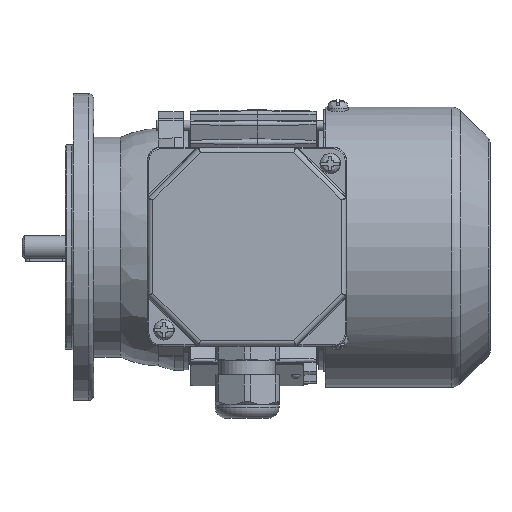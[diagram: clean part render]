
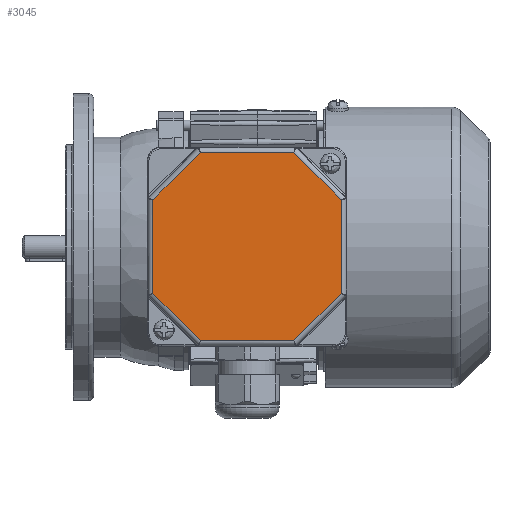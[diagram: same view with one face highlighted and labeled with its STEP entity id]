
A CAD part, top view. The second image highlights one B-rep face of the part: STEP entity #3045.
In plain terms, the highlighted planar face has unit normal (0, 0, 1).
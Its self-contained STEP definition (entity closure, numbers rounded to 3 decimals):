
#3045 = ADVANCED_FACE( '', ( #6973 ), #6974, .T. );
#6973 = FACE_OUTER_BOUND( '', #14231, .T. );
#6974 = PLANE( '', #14232 );
#14231 = EDGE_LOOP( '', ( #29536, #29537, #29538, #29539, #29540, #29541, #29542, #29543 ) );
#14232 = AXIS2_PLACEMENT_3D( '', #29544, #29545, #29546 );
#29536 = ORIENTED_EDGE( '', *, *, #42505, .T. );
#29537 = ORIENTED_EDGE( '', *, *, #42506, .T. );
#29538 = ORIENTED_EDGE( '', *, *, #42507, .T. );
#29539 = ORIENTED_EDGE( '', *, *, #40877, .T. );
#29540 = ORIENTED_EDGE( '', *, *, #42508, .T. );
#29541 = ORIENTED_EDGE( '', *, *, #42509, .T. );
#29542 = ORIENTED_EDGE( '', *, *, #42510, .T. );
#29543 = ORIENTED_EDGE( '', *, *, #42511, .T. );
#29544 = CARTESIAN_POINT( '', ( -39., 39., 12. ) );
#29545 = DIRECTION( '', ( 0., 0., 1. ) );
#29546 = DIRECTION( '', ( 1., 0., 0. ) );
#40877 = EDGE_CURVE( '', #46573, #47157, #47158, .T. );
#42505 = EDGE_CURVE( '', #49923, #46204, #49924, .F. );
#42506 = EDGE_CURVE( '', #46204, #49925, #49926, .T. );
#42507 = EDGE_CURVE( '', #49925, #46573, #49927, .F. );
#42508 = EDGE_CURVE( '', #47157, #49928, #49929, .F. );
#42509 = EDGE_CURVE( '', #49928, #49930, #49931, .T. );
#42510 = EDGE_CURVE( '', #49930, #47858, #49932, .F. );
#42511 = EDGE_CURVE( '', #47858, #49923, #49933, .T. );
#46204 = VERTEX_POINT( '', #54943 );
#46573 = VERTEX_POINT( '', #55884 );
#47157 = VERTEX_POINT( '', #57012 );
#47158 = LINE( '', #57013, #57014 );
#47858 = VERTEX_POINT( '', #58382 );
#49923 = VERTEX_POINT( '', #63224 );
#49924 = LINE( '', #63225, #63226 );
#49925 = VERTEX_POINT( '', #63227 );
#49926 = LINE( '', #63228, #63229 );
#49927 = LINE( '', #63230, #63231 );
#49928 = VERTEX_POINT( '', #63232 );
#49929 = LINE( '', #63233, #63234 );
#49930 = VERTEX_POINT( '', #63235 );
#49931 = LINE( '', #63236, #63237 );
#49932 = LINE( '', #63238, #63239 );
#49933 = LINE( '', #63240, #63241 );
#54943 = CARTESIAN_POINT( '', ( 36.825, 18.255, 12. ) );
#55884 = CARTESIAN_POINT( '', ( -18.255, 36.825, 12. ) );
#57012 = CARTESIAN_POINT( '', ( -36.825, 18.255, 12. ) );
#57013 = CARTESIAN_POINT( '', ( -37.401, 17.679, 12. ) );
#57014 = VECTOR( '', #74577, 1000. );
#58382 = CARTESIAN_POINT( '', ( 18.255, -36.825, 12. ) );
#63224 = CARTESIAN_POINT( '', ( 36.825, -18.255, 12. ) );
#63225 = CARTESIAN_POINT( '', ( 36.825, 19.069, 12. ) );
#63226 = VECTOR( '', #76735, 1000. );
#63227 = CARTESIAN_POINT( '', ( 18.255, 36.825, 12. ) );
#63228 = CARTESIAN_POINT( '', ( 17.679, 37.401, 12. ) );
#63229 = VECTOR( '', #76736, 1000. );
#63230 = CARTESIAN_POINT( '', ( -19.069, 36.825, 12. ) );
#63231 = VECTOR( '', #76737, 1000. );
#63232 = CARTESIAN_POINT( '', ( -36.825, -18.255, 12. ) );
#63233 = CARTESIAN_POINT( '', ( -36.825, -19.069, 12. ) );
#63234 = VECTOR( '', #76738, 1000. );
#63235 = CARTESIAN_POINT( '', ( -18.255, -36.825, 12. ) );
#63236 = CARTESIAN_POINT( '', ( -17.679, -37.401, 12. ) );
#63237 = VECTOR( '', #76739, 1000. );
#63238 = CARTESIAN_POINT( '', ( 19.069, -36.825, 12. ) );
#63239 = VECTOR( '', #76740, 1000. );
#63240 = CARTESIAN_POINT( '', ( 37.401, -17.679, 12. ) );
#63241 = VECTOR( '', #76741, 1000. );
#74577 = DIRECTION( '', ( -0.707, -0.707, 0. ) );
#76735 = DIRECTION( '', ( 0., -1., 0. ) );
#76736 = DIRECTION( '', ( -0.707, 0.707, 0. ) );
#76737 = DIRECTION( '', ( 1., 0., 0. ) );
#76738 = DIRECTION( '', ( 0., 1., 0. ) );
#76739 = DIRECTION( '', ( 0.707, -0.707, 0. ) );
#76740 = DIRECTION( '', ( -1., 0., 0. ) );
#76741 = DIRECTION( '', ( 0.707, 0.707, 0. ) );
